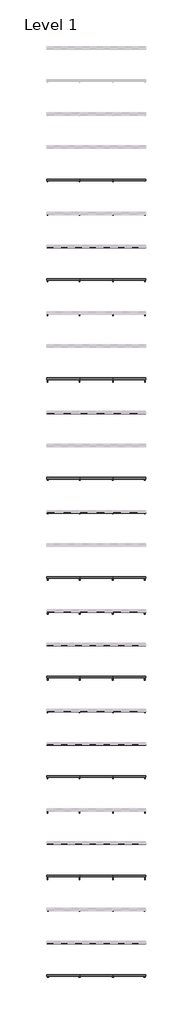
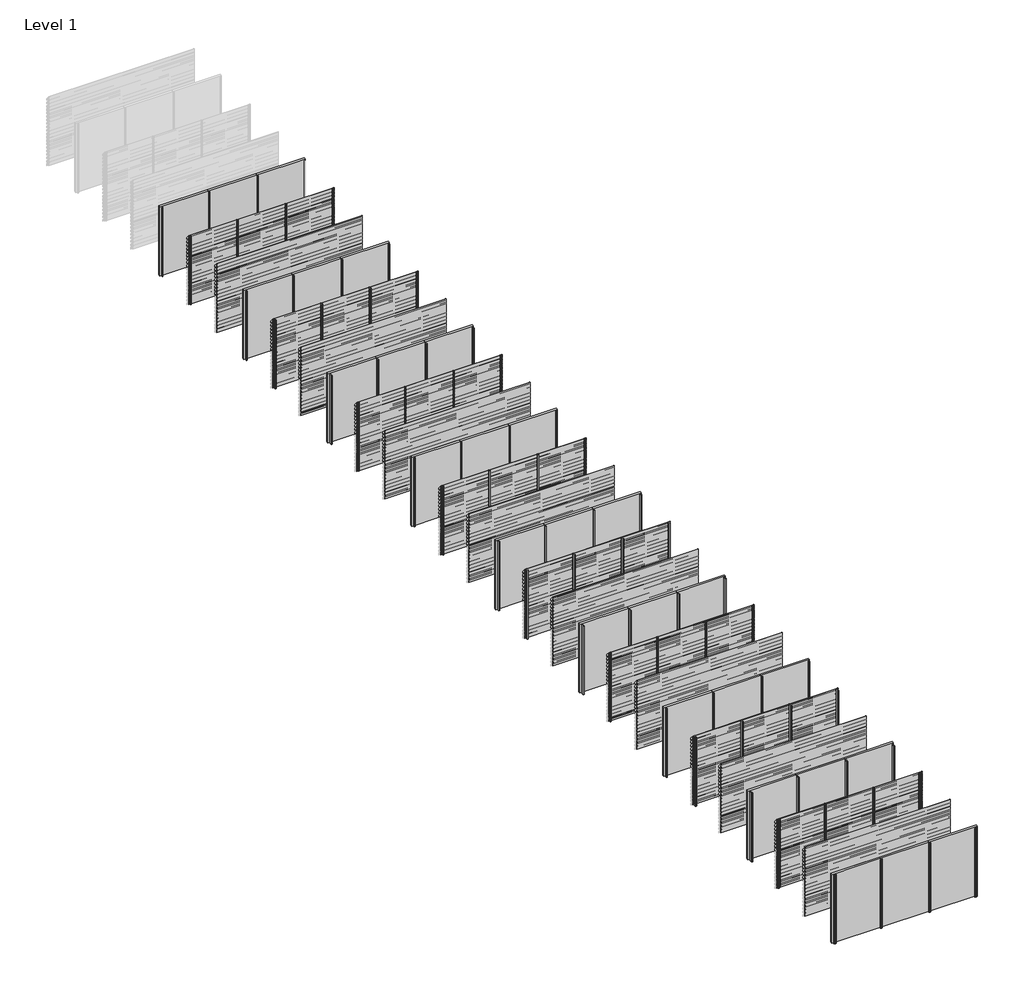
# One storey, part 1 of 16: 67 members, 59 plates.
"""IFC4 building model written with IfcOpenShell, lengths in millimetres."""

from ifc_helpers import new_model, si_unit, origin, origin_with_axes, place, context, project, spatial, polyline, outline, extrude, transform, mapped, element, save
from components import rectangular_mullion_e1f482b2, rectangular_mullion_21e3ddae, rectangular_mullion_fb497acc, rectangular_mullion_3facce28, rectangular_mullion_6cf2c509, rectangular_mullion_8b77bd57, rectangular_mullion_2c867e25, rectangular_mullion_7803f5c4, rectangular_mullion_82152e2f, rectangular_mullion_146f339b, rectangular_mullion_c2c7736a, rectangular_mullion_35b0a916, rectangular_mullion_bd250e2e, rectangular_mullion_7b49c8f1, rectangular_mullion_2b84ad7e, rectangular_mullion_0fd695e7, rectangular_mullion_9b796d85, rectangular_mullion_dfb17e98, rectangular_mullion_6132f1f1, rectangular_mullion_8f153c19, rectangular_mullion_5b30f3fd, rectangular_mullion_5e0e8e0a, rectangular_mullion_d2d38772, rectangular_mullion_efb80f74, rectangular_mullion_aaa1fb1b, rectangular_mullion_ea9d012c, empty_system_panel_empty_90a97279

model = new_model("IFC4")

# Units and contexts
model_context = context("Model", 3, world=origin())
ifc_project = project(units=[si_unit("LENGTHUNIT", "METRE", prefix="MILLI")], contexts=[model_context])

# Site, building, storey
site = spatial("IfcSite", under=ifc_project)
building = spatial("IfcBuilding", under=site)
storey = spatial("IfcBuildingStorey", under=building, Name="Level 1", Elevation=0.0)

# Members
placement = place(None, origin())
rectangular_mullion_shape = rectangular_mullion_e1f482b2(model_context)
element("IfcMember", 1, ObjectType="Rectangular Mullion : NLRS_21_CWM_drager LD.0195_Storax", at=placement, inside=storey, context=model_context, shape_type="MappedRepresentation", body=[
    mapped(rectangular_mullion_shape, transform((4000.0, -10000.0, 0.0), x_axis=(-1.0, 0.0, 0.0), y_axis=(0.0, 1.0, 0.0), z_axis=(0.0, 0.0, -1.0))),
])
element("IfcMember", 2, ObjectType="Rectangular Mullion : NLRS_21_CWM_drager LD.0195_Storax", at=placement, inside=storey, context=model_context, shape_type="MappedRepresentation", body=[
    mapped(rectangular_mullion_shape, transform((2000.0, -10000.0, 0.0), x_axis=(-1.0, 0.0, 0.0), y_axis=(0.0, 1.0, 0.0), z_axis=(0.0, 0.0, -1.0))),
])
rectangular_mullion_2_shape = rectangular_mullion_21e3ddae(model_context)
element("IfcMember", 3, ObjectType="Rectangular Mullion : NLRS_21_CWM_drager LD.0460_Storax", at=placement, inside=storey, context=model_context, shape_type="MappedRepresentation", body=[
    mapped(rectangular_mullion_2_shape, transform((4000.0, -12000.0, 0.0), x_axis=(-1.0, 0.0, 0.0), y_axis=(0.0, 1.0, 0.0), z_axis=(0.0, 0.0, -1.0))),
])
element("IfcMember", 4, ObjectType="Rectangular Mullion : NLRS_21_CWM_drager LD.0460_Storax", at=placement, inside=storey, context=model_context, shape_type="MappedRepresentation", body=[
    mapped(rectangular_mullion_2_shape, transform((2000.0, -12000.0, 0.0), x_axis=(-1.0, 0.0, 0.0), y_axis=(0.0, 1.0, 0.0), z_axis=(0.0, 0.0, -1.0))),
])
element("IfcMember", 5, ObjectType="Rectangular Mullion : NLRS_21_CWM_drager LD.0460_Storax", at=placement, inside=storey, context=model_context, shape_type="MappedRepresentation", body=[
    mapped(rectangular_mullion_2_shape, transform((4000.0, -16000.0, 0.0), x_axis=(-1.0, 0.0, 0.0), y_axis=(0.0, 1.0, 0.0), z_axis=(0.0, 0.0, -1.0))),
])
element("IfcMember", 6, ObjectType="Rectangular Mullion : NLRS_21_CWM_drager LD.0460_Storax", at=placement, inside=storey, context=model_context, shape_type="MappedRepresentation", body=[
    mapped(rectangular_mullion_2_shape, transform((2000.0, -16000.0, 0.0), x_axis=(-1.0, 0.0, 0.0), y_axis=(0.0, 1.0, 0.0), z_axis=(0.0, 0.0, -1.0))),
])
rectangular_mullion_3_shape = rectangular_mullion_fb497acc(model_context)
element("IfcMember", 7, ObjectType="Rectangular Mullion : NLRS_21_CWM_drager LD.0995_Storax", at=placement, inside=storey, context=model_context, shape_type="MappedRepresentation", body=[
    mapped(rectangular_mullion_3_shape, transform((4000.0, -18000.0, 0.0), x_axis=(-1.0, 0.0, 0.0), y_axis=(0.0, 1.0, 0.0), z_axis=(0.0, 0.0, -1.0))),
])
element("IfcMember", 8, ObjectType="Rectangular Mullion : NLRS_21_CWM_drager LD.0995_Storax", at=placement, inside=storey, context=model_context, shape_type="MappedRepresentation", body=[
    mapped(rectangular_mullion_3_shape, transform((2000.0, -18000.0, 0.0), x_axis=(-1.0, 0.0, 0.0), y_axis=(0.0, 1.0, 0.0), z_axis=(0.0, 0.0, -1.0))),
])
element("IfcMember", 9, ObjectType="Rectangular Mullion : NLRS_21_CWM_drager LD.0995_Storax", at=placement, inside=storey, context=model_context, shape_type="MappedRepresentation", body=[
    mapped(rectangular_mullion_3_shape, transform((4000.0, -22000.0, 0.0), x_axis=(-1.0, 0.0, 0.0), y_axis=(0.0, 1.0, 0.0), z_axis=(0.0, 0.0, -1.0))),
])
element("IfcMember", 10, ObjectType="Rectangular Mullion : NLRS_21_CWM_drager LD.0995_Storax", at=placement, inside=storey, context=model_context, shape_type="MappedRepresentation", body=[
    mapped(rectangular_mullion_3_shape, transform((2000.0, -22000.0, 0.0), x_axis=(-1.0, 0.0, 0.0), y_axis=(0.0, 1.0, 0.0), z_axis=(0.0, 0.0, -1.0))),
])
rectangular_mullion_4_shape = rectangular_mullion_3facce28(model_context)
element("IfcMember", 11, ObjectType="Rectangular Mullion : NLRS_21_CWM_drager SD.014_Storax", at=placement, inside=storey, context=model_context, shape_type="MappedRepresentation", body=[
    mapped(rectangular_mullion_4_shape, transform((4000.0, -24000.0, 0.0), x_axis=(-1.0, 0.0, 0.0), y_axis=(0.0, 1.0, 0.0), z_axis=(0.0, 0.0, -1.0))),
])
element("IfcMember", 12, ObjectType="Rectangular Mullion : NLRS_21_CWM_drager SD.014_Storax", at=placement, inside=storey, context=model_context, shape_type="MappedRepresentation", body=[
    mapped(rectangular_mullion_4_shape, transform((2000.0, -24000.0, 0.0), x_axis=(-1.0, 0.0, 0.0), y_axis=(0.0, 1.0, 0.0), z_axis=(0.0, 0.0, -1.0))),
])
element("IfcMember", 13, ObjectType="Rectangular Mullion : NLRS_21_CWM_drager SD.014_Storax", at=placement, inside=storey, context=model_context, shape_type="MappedRepresentation", body=[
    mapped(rectangular_mullion_4_shape, transform((4000.0, -28000.0, 0.0), x_axis=(-1.0, 0.0, 0.0), y_axis=(0.0, 1.0, 0.0), z_axis=(0.0, 0.0, -1.0))),
])
element("IfcMember", 14, ObjectType="Rectangular Mullion : NLRS_21_CWM_drager SD.014_Storax", at=placement, inside=storey, context=model_context, shape_type="MappedRepresentation", body=[
    mapped(rectangular_mullion_4_shape, transform((2000.0, -28000.0, 0.0), x_axis=(-1.0, 0.0, 0.0), y_axis=(0.0, 1.0, 0.0), z_axis=(0.0, 0.0, -1.0))),
])
rectangular_mullion_5_shape = rectangular_mullion_6cf2c509(model_context)
element("IfcMember", 15, ObjectType="Rectangular Mullion : NLRS_21_CWM_drager SD.054_Storax", at=placement, inside=storey, context=model_context, shape_type="MappedRepresentation", body=[
    mapped(rectangular_mullion_5_shape, transform((4000.0, -30000.0, 0.0), x_axis=(-1.0, 0.0, 0.0), y_axis=(0.0, 1.0, 0.0), z_axis=(0.0, 0.0, -1.0))),
])
element("IfcMember", 16, ObjectType="Rectangular Mullion : NLRS_21_CWM_drager SD.054_Storax", at=placement, inside=storey, context=model_context, shape_type="MappedRepresentation", body=[
    mapped(rectangular_mullion_5_shape, transform((2000.0, -30000.0, 0.0), x_axis=(-1.0, 0.0, 0.0), y_axis=(0.0, 1.0, 0.0), z_axis=(0.0, 0.0, -1.0))),
])
element("IfcMember", 17, ObjectType="Rectangular Mullion : NLRS_21_CWM_drager SD.054_Storax", at=placement, inside=storey, context=model_context, shape_type="MappedRepresentation", body=[
    mapped(rectangular_mullion_5_shape, transform((4000.0, -34000.0, 0.0), x_axis=(-1.0, 0.0, 0.0), y_axis=(0.0, 1.0, 0.0), z_axis=(0.0, 0.0, -1.0))),
])
element("IfcMember", 18, ObjectType="Rectangular Mullion : NLRS_21_CWM_drager SD.054_Storax", at=placement, inside=storey, context=model_context, shape_type="MappedRepresentation", body=[
    mapped(rectangular_mullion_5_shape, transform((2000.0, -34000.0, 0.0), x_axis=(-1.0, 0.0, 0.0), y_axis=(0.0, 1.0, 0.0), z_axis=(0.0, 0.0, -1.0))),
])
rectangular_mullion_6_shape = rectangular_mullion_8b77bd57(model_context)
element("IfcMember", 19, ObjectType="Rectangular Mullion : NLRS_21_CWM_drager SD.100_Storax", at=placement, inside=storey, context=model_context, shape_type="MappedRepresentation", body=[
    mapped(rectangular_mullion_6_shape, transform((4000.0, -36000.0, 0.0), x_axis=(-1.0, 0.0, 0.0), y_axis=(0.0, 1.0, 0.0), z_axis=(0.0, 0.0, -1.0))),
])
element("IfcMember", 20, ObjectType="Rectangular Mullion : NLRS_21_CWM_drager SD.100_Storax", at=placement, inside=storey, context=model_context, shape_type="MappedRepresentation", body=[
    mapped(rectangular_mullion_6_shape, transform((2000.0, -36000.0, 0.0), x_axis=(-1.0, 0.0, 0.0), y_axis=(0.0, 1.0, 0.0), z_axis=(0.0, 0.0, -1.0))),
])
element("IfcMember", 21, ObjectType="Rectangular Mullion : NLRS_21_CWM_drager SD.100_Storax", at=placement, inside=storey, context=model_context, shape_type="MappedRepresentation", body=[
    mapped(rectangular_mullion_6_shape, transform((4000.0, -40000.0, 0.0), x_axis=(-1.0, 0.0, 0.0), y_axis=(0.0, 1.0, 0.0), z_axis=(0.0, 0.0, -1.0))),
])
element("IfcMember", 22, ObjectType="Rectangular Mullion : NLRS_21_CWM_drager SD.100_Storax", at=placement, inside=storey, context=model_context, shape_type="MappedRepresentation", body=[
    mapped(rectangular_mullion_6_shape, transform((2000.0, -40000.0, 0.0), x_axis=(-1.0, 0.0, 0.0), y_axis=(0.0, 1.0, 0.0), z_axis=(0.0, 0.0, -1.0))),
])
rectangular_mullion_7_shape = rectangular_mullion_2c867e25(model_context)
element("IfcMember", 23, ObjectType="Rectangular Mullion : NLRS_21_CWM_drager LD.0440_Storax", at=placement, inside=storey, context=model_context, shape_type="MappedRepresentation", body=[
    mapped(rectangular_mullion_7_shape, transform((4000.0, -42000.0, 0.0), x_axis=(-1.0, 0.0, 0.0), y_axis=(0.0, 1.0, 0.0), z_axis=(0.0, 0.0, -1.0))),
])
element("IfcMember", 24, ObjectType="Rectangular Mullion : NLRS_21_CWM_drager LD.0440_Storax", at=placement, inside=storey, context=model_context, shape_type="MappedRepresentation", body=[
    mapped(rectangular_mullion_7_shape, transform((2000.0, -42000.0, 0.0), x_axis=(-1.0, 0.0, 0.0), y_axis=(0.0, 1.0, 0.0), z_axis=(0.0, 0.0, -1.0))),
])
element("IfcMember", 25, ObjectType="Rectangular Mullion : NLRS_21_CWM_drager LD.0440_Storax", at=placement, inside=storey, context=model_context, shape_type="MappedRepresentation", body=[
    mapped(rectangular_mullion_7_shape, transform((4000.0, -46000.0, 0.0), x_axis=(-1.0, 0.0, 0.0), y_axis=(0.0, 1.0, 0.0), z_axis=(0.0, 0.0, -1.0))),
])
element("IfcMember", 26, ObjectType="Rectangular Mullion : NLRS_21_CWM_drager LD.0440_Storax", at=placement, inside=storey, context=model_context, shape_type="MappedRepresentation", body=[
    mapped(rectangular_mullion_7_shape, transform((2000.0, -46000.0, 0.0), x_axis=(-1.0, 0.0, 0.0), y_axis=(0.0, 1.0, 0.0), z_axis=(0.0, 0.0, -1.0))),
])
rectangular_mullion_8_shape = rectangular_mullion_7803f5c4(model_context)
element("IfcMember", 27, ObjectType="Rectangular Mullion : NLRS_21_CWM_drager LD.1250_Storax", at=placement, inside=storey, context=model_context, shape_type="MappedRepresentation", body=[
    mapped(rectangular_mullion_8_shape, transform((4000.0, -48000.0, 0.0), x_axis=(-1.0, 0.0, 0.0), y_axis=(0.0, 1.0, 0.0), z_axis=(0.0, 0.0, -1.0))),
])
element("IfcMember", 28, ObjectType="Rectangular Mullion : NLRS_21_CWM_drager LD.1250_Storax", at=placement, inside=storey, context=model_context, shape_type="MappedRepresentation", body=[
    mapped(rectangular_mullion_8_shape, transform((2000.0, -48000.0, 0.0), x_axis=(-1.0, 0.0, 0.0), y_axis=(0.0, 1.0, 0.0), z_axis=(0.0, 0.0, -1.0))),
])
element("IfcMember", 29, ObjectType="Rectangular Mullion : NLRS_21_CWM_drager LD.1250_Storax", at=placement, inside=storey, context=model_context, shape_type="MappedRepresentation", body=[
    mapped(rectangular_mullion_8_shape, transform((4000.0, -52000.0, 0.0), x_axis=(-1.0, 0.0, 0.0), y_axis=(0.0, 1.0, 0.0), z_axis=(0.0, 0.0, -1.0))),
])
element("IfcMember", 30, ObjectType="Rectangular Mullion : NLRS_21_CWM_drager LD.1250_Storax", at=placement, inside=storey, context=model_context, shape_type="MappedRepresentation", body=[
    mapped(rectangular_mullion_8_shape, transform((2000.0, -52000.0, 0.0), x_axis=(-1.0, 0.0, 0.0), y_axis=(0.0, 1.0, 0.0), z_axis=(0.0, 0.0, -1.0))),
])
rectangular_mullion_9_shape = rectangular_mullion_82152e2f(model_context)
element("IfcMember", 31, ObjectType="Rectangular Mullion : NLRS_21_CWM_drager LD.0240_Storax", at=placement, inside=storey, context=model_context, shape_type="MappedRepresentation", body=[
    mapped(rectangular_mullion_9_shape, transform((4000.0, -54000.0, 0.0), x_axis=(-1.0, 0.0, 0.0), y_axis=(0.0, 1.0, 0.0), z_axis=(0.0, 0.0, -1.0))),
])
element("IfcMember", 32, ObjectType="Rectangular Mullion : NLRS_21_CWM_drager LD.0240_Storax", at=placement, inside=storey, context=model_context, shape_type="MappedRepresentation", body=[
    mapped(rectangular_mullion_9_shape, transform((2000.0, -54000.0, 0.0), x_axis=(-1.0, 0.0, 0.0), y_axis=(0.0, 1.0, 0.0), z_axis=(0.0, 0.0, -1.0))),
])
element("IfcMember", 33, ObjectType="Rectangular Mullion : NLRS_21_CWM_drager LD.0240_Storax", at=placement, inside=storey, context=model_context, shape_type="MappedRepresentation", body=[
    mapped(rectangular_mullion_9_shape, transform((4000.0, -58000.0, 0.0), x_axis=(-1.0, 0.0, 0.0), y_axis=(0.0, 1.0, 0.0), z_axis=(0.0, 0.0, -1.0))),
])
element("IfcMember", 34, ObjectType="Rectangular Mullion : NLRS_21_CWM_drager LD.0240_Storax", at=placement, inside=storey, context=model_context, shape_type="MappedRepresentation", body=[
    mapped(rectangular_mullion_9_shape, transform((2000.0, -58000.0, 0.0), x_axis=(-1.0, 0.0, 0.0), y_axis=(0.0, 1.0, 0.0), z_axis=(0.0, 0.0, -1.0))),
])
rectangular_mullion_10_shape = rectangular_mullion_146f339b(model_context)
element("IfcMember", 35, ObjectType="Rectangular Mullion : NLRS_21_CWM_drager LD.0195 - links_Storax", at=placement, inside=storey, context=model_context, shape_type="MappedRepresentation", body=[
    mapped(rectangular_mullion_10_shape, transform((0.0, -10000.0, 0.0), x_axis=(-1.0, 0.0, 0.0), y_axis=(0.0, 1.0, 0.0), z_axis=(0.0, 0.0, -1.0))),
])
rectangular_mullion_11_shape = rectangular_mullion_c2c7736a(model_context)
element("IfcMember", 36, ObjectType="Rectangular Mullion : NLRS_21_CWM_drager LD.0460 - links_Storax", at=placement, inside=storey, context=model_context, shape_type="MappedRepresentation", body=[
    mapped(rectangular_mullion_11_shape, transform((0.0, -12000.0, 0.0), x_axis=(-1.0, 0.0, 0.0), y_axis=(0.0, 1.0, 0.0), z_axis=(0.0, 0.0, -1.0))),
])
element("IfcMember", 37, ObjectType="Rectangular Mullion : NLRS_21_CWM_drager LD.0460 - links_Storax", at=placement, inside=storey, context=model_context, shape_type="MappedRepresentation", body=[
    mapped(rectangular_mullion_11_shape, transform((0.0, -16000.0, 0.0), x_axis=(-1.0, 0.0, 0.0), y_axis=(0.0, 1.0, 0.0), z_axis=(0.0, 0.0, -1.0))),
])
rectangular_mullion_12_shape = rectangular_mullion_35b0a916(model_context)
element("IfcMember", 38, ObjectType="Rectangular Mullion : NLRS_21_CWM_drager LD.0460 - rechts_Storax", at=placement, inside=storey, context=model_context, shape_type="MappedRepresentation", body=[
    mapped(rectangular_mullion_12_shape, transform((6000.0, -12000.0, 3000.0), x_axis=(1.0, 0.0, 0.0), y_axis=(0.0, 1.0, 0.0), z_axis=(0.0, 0.0, 1.0))),
])
element("IfcMember", 39, ObjectType="Rectangular Mullion : NLRS_21_CWM_drager LD.0460 - rechts_Storax", at=placement, inside=storey, context=model_context, shape_type="MappedRepresentation", body=[
    mapped(rectangular_mullion_12_shape, transform((6000.0, -16000.0, 3000.0), x_axis=(1.0, 0.0, 0.0), y_axis=(0.0, 1.0, 0.0), z_axis=(0.0, 0.0, 1.0))),
])
rectangular_mullion_13_shape = rectangular_mullion_bd250e2e(model_context)
element("IfcMember", 40, ObjectType="Rectangular Mullion : NLRS_21_CWM_drager LD.0995 - links_Storax", at=placement, inside=storey, context=model_context, shape_type="MappedRepresentation", body=[
    mapped(rectangular_mullion_13_shape, transform((0.0, -18000.0, 0.0), x_axis=(-1.0, 0.0, 0.0), y_axis=(0.0, 1.0, 0.0), z_axis=(0.0, 0.0, -1.0))),
])
element("IfcMember", 41, ObjectType="Rectangular Mullion : NLRS_21_CWM_drager LD.0995 - links_Storax", at=placement, inside=storey, context=model_context, shape_type="MappedRepresentation", body=[
    mapped(rectangular_mullion_13_shape, transform((0.0, -22000.0, 0.0), x_axis=(-1.0, 0.0, 0.0), y_axis=(0.0, 1.0, 0.0), z_axis=(0.0, 0.0, -1.0))),
])
rectangular_mullion_14_shape = rectangular_mullion_7b49c8f1(model_context)
element("IfcMember", 42, ObjectType="Rectangular Mullion : NLRS_21_CWM_drager LD.0995 - rechts_Storax", at=placement, inside=storey, context=model_context, shape_type="MappedRepresentation", body=[
    mapped(rectangular_mullion_14_shape, transform((6000.0, -18000.0, 3000.0), x_axis=(1.0, 0.0, 0.0), y_axis=(0.0, 1.0, 0.0), z_axis=(0.0, 0.0, 1.0))),
])
element("IfcMember", 43, ObjectType="Rectangular Mullion : NLRS_21_CWM_drager LD.0995 - rechts_Storax", at=placement, inside=storey, context=model_context, shape_type="MappedRepresentation", body=[
    mapped(rectangular_mullion_14_shape, transform((6000.0, -22000.0, 3000.0), x_axis=(1.0, 0.0, 0.0), y_axis=(0.0, 1.0, 0.0), z_axis=(0.0, 0.0, 1.0))),
])
rectangular_mullion_15_shape = rectangular_mullion_2b84ad7e(model_context)
element("IfcMember", 44, ObjectType="Rectangular Mullion : NLRS_21_CWM_drager SD.014 - links_Storax", at=placement, inside=storey, context=model_context, shape_type="MappedRepresentation", body=[
    mapped(rectangular_mullion_15_shape, transform((0.0, -24000.0, 0.0), x_axis=(-1.0, 0.0, 0.0), y_axis=(0.0, 1.0, 0.0), z_axis=(0.0, 0.0, -1.0))),
])
element("IfcMember", 45, ObjectType="Rectangular Mullion : NLRS_21_CWM_drager SD.014 - links_Storax", at=placement, inside=storey, context=model_context, shape_type="MappedRepresentation", body=[
    mapped(rectangular_mullion_15_shape, transform((0.0, -28000.0, 0.0), x_axis=(-1.0, 0.0, 0.0), y_axis=(0.0, 1.0, 0.0), z_axis=(0.0, 0.0, -1.0))),
])
rectangular_mullion_16_shape = rectangular_mullion_0fd695e7(model_context)
element("IfcMember", 46, ObjectType="Rectangular Mullion : NLRS_21_CWM_drager SD.014 - rechts_Storax", at=placement, inside=storey, context=model_context, shape_type="MappedRepresentation", body=[
    mapped(rectangular_mullion_16_shape, transform((6000.0, -24000.0, 3000.0), x_axis=(1.0, 0.0, 0.0), y_axis=(0.0, 1.0, 0.0), z_axis=(0.0, 0.0, 1.0))),
])
element("IfcMember", 47, ObjectType="Rectangular Mullion : NLRS_21_CWM_drager SD.014 - rechts_Storax", at=placement, inside=storey, context=model_context, shape_type="MappedRepresentation", body=[
    mapped(rectangular_mullion_16_shape, transform((6000.0, -28000.0, 3000.0), x_axis=(1.0, 0.0, 0.0), y_axis=(0.0, 1.0, 0.0), z_axis=(0.0, 0.0, 1.0))),
])
rectangular_mullion_17_shape = rectangular_mullion_9b796d85(model_context)
element("IfcMember", 48, ObjectType="Rectangular Mullion : NLRS_21_CWM_drager SD.054 - links_Storax", at=placement, inside=storey, context=model_context, shape_type="MappedRepresentation", body=[
    mapped(rectangular_mullion_17_shape, transform((0.0, -30000.0, 0.0), x_axis=(-1.0, 0.0, 0.0), y_axis=(0.0, 1.0, 0.0), z_axis=(0.0, 0.0, -1.0))),
])
element("IfcMember", 49, ObjectType="Rectangular Mullion : NLRS_21_CWM_drager SD.054 - links_Storax", at=placement, inside=storey, context=model_context, shape_type="MappedRepresentation", body=[
    mapped(rectangular_mullion_17_shape, transform((0.0, -34000.0, 0.0), x_axis=(-1.0, 0.0, 0.0), y_axis=(0.0, 1.0, 0.0), z_axis=(0.0, 0.0, -1.0))),
])
rectangular_mullion_18_shape = rectangular_mullion_dfb17e98(model_context)
element("IfcMember", 50, ObjectType="Rectangular Mullion : NLRS_21_CWM_drager SD.054 - rechts_Storax", at=placement, inside=storey, context=model_context, shape_type="MappedRepresentation", body=[
    mapped(rectangular_mullion_18_shape, transform((6000.0, -30000.0, 3000.0), x_axis=(1.0, 0.0, 0.0), y_axis=(0.0, 1.0, 0.0), z_axis=(0.0, 0.0, 1.0))),
])
element("IfcMember", 51, ObjectType="Rectangular Mullion : NLRS_21_CWM_drager SD.054 - rechts_Storax", at=placement, inside=storey, context=model_context, shape_type="MappedRepresentation", body=[
    mapped(rectangular_mullion_18_shape, transform((6000.0, -34000.0, 3000.0), x_axis=(1.0, 0.0, 0.0), y_axis=(0.0, 1.0, 0.0), z_axis=(0.0, 0.0, 1.0))),
])
rectangular_mullion_19_shape = rectangular_mullion_6132f1f1(model_context)
element("IfcMember", 52, ObjectType="Rectangular Mullion : NLRS_21_CWM_drager SD.100 - links_Storax", at=placement, inside=storey, context=model_context, shape_type="MappedRepresentation", body=[
    mapped(rectangular_mullion_19_shape, transform((0.0, -36000.0, 0.0), x_axis=(-1.0, 0.0, 0.0), y_axis=(0.0, 1.0, 0.0), z_axis=(0.0, 0.0, -1.0))),
])
element("IfcMember", 53, ObjectType="Rectangular Mullion : NLRS_21_CWM_drager SD.100 - links_Storax", at=placement, inside=storey, context=model_context, shape_type="MappedRepresentation", body=[
    mapped(rectangular_mullion_19_shape, transform((0.0, -40000.0, 0.0), x_axis=(-1.0, 0.0, 0.0), y_axis=(0.0, 1.0, 0.0), z_axis=(0.0, 0.0, -1.0))),
])
rectangular_mullion_20_shape = rectangular_mullion_8f153c19(model_context)
element("IfcMember", 54, ObjectType="Rectangular Mullion : NLRS_21_CWM_drager SD.100 - rechts_Storax", at=placement, inside=storey, context=model_context, shape_type="MappedRepresentation", body=[
    mapped(rectangular_mullion_20_shape, transform((6000.0, -36000.0, 3000.0), x_axis=(1.0, 0.0, 0.0), y_axis=(0.0, 1.0, 0.0), z_axis=(0.0, 0.0, 1.0))),
])
element("IfcMember", 55, ObjectType="Rectangular Mullion : NLRS_21_CWM_drager SD.100 - rechts_Storax", at=placement, inside=storey, context=model_context, shape_type="MappedRepresentation", body=[
    mapped(rectangular_mullion_20_shape, transform((6000.0, -40000.0, 3000.0), x_axis=(1.0, 0.0, 0.0), y_axis=(0.0, 1.0, 0.0), z_axis=(0.0, 0.0, 1.0))),
])
rectangular_mullion_21_shape = rectangular_mullion_5b30f3fd(model_context)
element("IfcMember", 56, ObjectType="Rectangular Mullion : NLRS_21_CWM_drager LD.0440 - links_Storax", at=placement, inside=storey, context=model_context, shape_type="MappedRepresentation", body=[
    mapped(rectangular_mullion_21_shape, transform((0.0, -42000.0, 0.0), x_axis=(-1.0, 0.0, 0.0), y_axis=(0.0, 1.0, 0.0), z_axis=(0.0, 0.0, -1.0))),
])
element("IfcMember", 57, ObjectType="Rectangular Mullion : NLRS_21_CWM_drager LD.0440 - links_Storax", at=placement, inside=storey, context=model_context, shape_type="MappedRepresentation", body=[
    mapped(rectangular_mullion_21_shape, transform((0.0, -46000.0, 0.0), x_axis=(-1.0, 0.0, 0.0), y_axis=(0.0, 1.0, 0.0), z_axis=(0.0, 0.0, -1.0))),
])
rectangular_mullion_22_shape = rectangular_mullion_5e0e8e0a(model_context)
element("IfcMember", 58, ObjectType="Rectangular Mullion : NLRS_21_CWM_drager LD.0440 - rechts_Storax", at=placement, inside=storey, context=model_context, shape_type="MappedRepresentation", body=[
    mapped(rectangular_mullion_22_shape, transform((6000.0, -42000.0, 3000.0), x_axis=(1.0, 0.0, 0.0), y_axis=(0.0, 1.0, 0.0), z_axis=(0.0, 0.0, 1.0))),
])
element("IfcMember", 59, ObjectType="Rectangular Mullion : NLRS_21_CWM_drager LD.0440 - rechts_Storax", at=placement, inside=storey, context=model_context, shape_type="MappedRepresentation", body=[
    mapped(rectangular_mullion_22_shape, transform((6000.0, -46000.0, 3000.0), x_axis=(1.0, 0.0, 0.0), y_axis=(0.0, 1.0, 0.0), z_axis=(0.0, 0.0, 1.0))),
])
rectangular_mullion_23_shape = rectangular_mullion_d2d38772(model_context)
element("IfcMember", 60, ObjectType="Rectangular Mullion : NLRS_21_CWM_drager LD.1250 - links_Storax", at=placement, inside=storey, context=model_context, shape_type="MappedRepresentation", body=[
    mapped(rectangular_mullion_23_shape, transform((0.0, -48000.0, 0.0), x_axis=(-1.0, 0.0, 0.0), y_axis=(0.0, 1.0, 0.0), z_axis=(0.0, 0.0, -1.0))),
])
element("IfcMember", 61, ObjectType="Rectangular Mullion : NLRS_21_CWM_drager LD.1250 - links_Storax", at=placement, inside=storey, context=model_context, shape_type="MappedRepresentation", body=[
    mapped(rectangular_mullion_23_shape, transform((0.0, -52000.0, 0.0), x_axis=(-1.0, 0.0, 0.0), y_axis=(0.0, 1.0, 0.0), z_axis=(0.0, 0.0, -1.0))),
])
rectangular_mullion_24_shape = rectangular_mullion_efb80f74(model_context)
element("IfcMember", 62, ObjectType="Rectangular Mullion : NLRS_21_CWM_drager LD.1250 - rechts_Storax", at=placement, inside=storey, context=model_context, shape_type="MappedRepresentation", body=[
    mapped(rectangular_mullion_24_shape, transform((6000.0, -48000.0, 3000.0), x_axis=(1.0, 0.0, 0.0), y_axis=(0.0, 1.0, 0.0), z_axis=(0.0, 0.0, 1.0))),
])
element("IfcMember", 63, ObjectType="Rectangular Mullion : NLRS_21_CWM_drager LD.1250 - rechts_Storax", at=placement, inside=storey, context=model_context, shape_type="MappedRepresentation", body=[
    mapped(rectangular_mullion_24_shape, transform((6000.0, -52000.0, 3000.0), x_axis=(1.0, 0.0, 0.0), y_axis=(0.0, 1.0, 0.0), z_axis=(0.0, 0.0, 1.0))),
])
rectangular_mullion_25_shape = rectangular_mullion_aaa1fb1b(model_context)
element("IfcMember", 64, ObjectType="Rectangular Mullion : NLRS_21_CWM_drager LD.0240 - links_Storax", at=placement, inside=storey, context=model_context, shape_type="MappedRepresentation", body=[
    mapped(rectangular_mullion_25_shape, transform((0.0, -54000.0, 0.0), x_axis=(-1.0, 0.0, 0.0), y_axis=(0.0, 1.0, 0.0), z_axis=(0.0, 0.0, -1.0))),
])
element("IfcMember", 65, ObjectType="Rectangular Mullion : NLRS_21_CWM_drager LD.0240 - links_Storax", at=placement, inside=storey, context=model_context, shape_type="MappedRepresentation", body=[
    mapped(rectangular_mullion_25_shape, transform((0.0, -58000.0, 0.0), x_axis=(-1.0, 0.0, 0.0), y_axis=(0.0, 1.0, 0.0), z_axis=(0.0, 0.0, -1.0))),
])
rectangular_mullion_26_shape = rectangular_mullion_ea9d012c(model_context)
element("IfcMember", 66, ObjectType="Rectangular Mullion : NLRS_21_CWM_drager LD.0240 - rechts_Storax", at=placement, inside=storey, context=model_context, shape_type="MappedRepresentation", body=[
    mapped(rectangular_mullion_26_shape, transform((6000.0, -54000.0, 3000.0), x_axis=(1.0, 0.0, 0.0), y_axis=(0.0, 1.0, 0.0), z_axis=(0.0, 0.0, 1.0))),
])
element("IfcMember", 67, ObjectType="Rectangular Mullion : NLRS_21_CWM_drager LD.0240 - rechts_Storax", at=placement, inside=storey, context=model_context, shape_type="MappedRepresentation", body=[
    mapped(rectangular_mullion_26_shape, transform((6000.0, -58000.0, 3000.0), x_axis=(1.0, 0.0, 0.0), y_axis=(0.0, 1.0, 0.0), z_axis=(0.0, 0.0, 1.0))),
])

# Plates
element("IfcPlate", 68, ObjectType="NLRS_21_WA_lamellenwand Linius - L.150ACS_Storax", at=placement, inside=storey, context=model_context, shape_type="SweptSolid", body=[
    extrude(outline(polyline([(0.0, -11999.0), (2000.0, -11999.0), (2000.0, -12001.0), (0.0, -12001.0), (0.0, -11999.0)])), origin_with_axes(), (0.0, 0.0, 1.0), 3000.0),
])
element("IfcPlate", 69, ObjectType="NLRS_21_WA_lamellenwand Linius - L.150ACS_Storax", at=placement, inside=storey, context=model_context, shape_type="SweptSolid", body=[
    extrude(outline(polyline([(2000.0, -11999.0), (4000.0, -11999.0), (4000.0, -12001.0), (2000.0, -12001.0), (2000.0, -11999.0)])), origin_with_axes(), (0.0, 0.0, 1.0), 3000.0),
])
element("IfcPlate", 70, ObjectType="NLRS_21_WA_lamellenwand Linius - L.150ACS_Storax", at=placement, inside=storey, context=model_context, shape_type="SweptSolid", body=[
    extrude(outline(polyline([(4000.0, -11999.0), (6000.0, -11999.0), (6000.0, -12001.0), (4000.0, -12001.0), (4000.0, -11999.0)])), origin_with_axes(), (0.0, 0.0, 1.0), 3000.0),
])
element("IfcPlate", 71, ObjectType="NLRS_21_WA_lamellenwand Linius - L.150ACS_Storax", at=placement, inside=storey, context=model_context, shape_type="SweptSolid", body=[
    extrude(outline(polyline([(0.0, -13999.0), (6000.0, -13999.0), (6000.0, -14001.0), (0.0, -14001.0), (0.0, -13999.0)])), origin_with_axes(), (0.0, 0.0, 1.0), 3000.0),
])
element("IfcPlate", 72, ObjectType="NLRS_21_WA_lamellenwand Linius - L.150ACS_Storax", at=placement, inside=storey, context=model_context, shape_type="SweptSolid", body=[
    extrude(outline(polyline([(0.0, -17999.0), (2000.0, -17999.0), (2000.0, -18001.0), (0.0, -18001.0), (0.0, -17999.0)])), origin_with_axes(), (0.0, 0.0, 1.0), 3000.0),
])
element("IfcPlate", 73, ObjectType="NLRS_21_WA_lamellenwand Linius - L.150ACS_Storax", at=placement, inside=storey, context=model_context, shape_type="SweptSolid", body=[
    extrude(outline(polyline([(2000.0, -17999.0), (4000.0, -17999.0), (4000.0, -18001.0), (2000.0, -18001.0), (2000.0, -17999.0)])), origin_with_axes(), (0.0, 0.0, 1.0), 3000.0),
])
element("IfcPlate", 74, ObjectType="NLRS_21_WA_lamellenwand Linius - L.150ACS_Storax", at=placement, inside=storey, context=model_context, shape_type="SweptSolid", body=[
    extrude(outline(polyline([(4000.0, -17999.0), (6000.0, -17999.0), (6000.0, -18001.0), (4000.0, -18001.0), (4000.0, -17999.0)])), origin_with_axes(), (0.0, 0.0, 1.0), 3000.0),
])
element("IfcPlate", 75, ObjectType="NLRS_21_WA_lamellenwand Linius - L.150ACS_Storax", at=placement, inside=storey, context=model_context, shape_type="SweptSolid", body=[
    extrude(outline(polyline([(0.0, -19999.0), (6000.0, -19999.0), (6000.0, -20001.0), (0.0, -20001.0), (0.0, -19999.0)])), origin_with_axes(), (0.0, 0.0, 1.0), 3000.0),
])
element("IfcPlate", 76, ObjectType="NLRS_21_WA_lamellenwand Linius - L.150ACS_Storax", at=placement, inside=storey, context=model_context, shape_type="SweptSolid", body=[
    extrude(outline(polyline([(0.0, -23999.0), (2000.0, -23999.0), (2000.0, -24001.0), (0.0, -24001.0), (0.0, -23999.0)])), origin_with_axes(), (0.0, 0.0, 1.0), 3000.0),
])
element("IfcPlate", 77, ObjectType="NLRS_21_WA_lamellenwand Linius - L.150ACS_Storax", at=placement, inside=storey, context=model_context, shape_type="SweptSolid", body=[
    extrude(outline(polyline([(2000.0, -23999.0), (4000.0, -23999.0), (4000.0, -24001.0), (2000.0, -24001.0), (2000.0, -23999.0)])), origin_with_axes(), (0.0, 0.0, 1.0), 3000.0),
])
element("IfcPlate", 78, ObjectType="NLRS_21_WA_lamellenwand Linius - L.150ACS_Storax", at=placement, inside=storey, context=model_context, shape_type="SweptSolid", body=[
    extrude(outline(polyline([(4000.0, -23999.0), (6000.0, -23999.0), (6000.0, -24001.0), (4000.0, -24001.0), (4000.0, -23999.0)])), origin_with_axes(), (0.0, 0.0, 1.0), 3000.0),
])
element("IfcPlate", 79, ObjectType="NLRS_21_WA_lamellenwand Linius - L.150ACS_Storax", at=placement, inside=storey, context=model_context, shape_type="SweptSolid", body=[
    extrude(outline(polyline([(0.0, -25999.0), (6000.0, -25999.0), (6000.0, -26001.0), (0.0, -26001.0), (0.0, -25999.0)])), origin_with_axes(), (0.0, 0.0, 1.0), 3000.0),
])
element("IfcPlate", 80, ObjectType="NLRS_21_WA_lamellenwand Linius - L.150ACS_Storax", at=placement, inside=storey, context=model_context, shape_type="SweptSolid", body=[
    extrude(outline(polyline([(0.0, -29999.0), (2000.0, -29999.0), (2000.0, -30001.0), (0.0, -30001.0), (0.0, -29999.0)])), origin_with_axes(), (0.0, 0.0, 1.0), 3000.0),
])
element("IfcPlate", 81, ObjectType="NLRS_21_WA_lamellenwand Linius - L.150ACS_Storax", at=placement, inside=storey, context=model_context, shape_type="SweptSolid", body=[
    extrude(outline(polyline([(2000.0, -29999.0), (4000.0, -29999.0), (4000.0, -30001.0), (2000.0, -30001.0), (2000.0, -29999.0)])), origin_with_axes(), (0.0, 0.0, 1.0), 3000.0),
])
element("IfcPlate", 82, ObjectType="NLRS_21_WA_lamellenwand Linius - L.150ACS_Storax", at=placement, inside=storey, context=model_context, shape_type="SweptSolid", body=[
    extrude(outline(polyline([(4000.0, -29999.0), (6000.0, -29999.0), (6000.0, -30001.0), (4000.0, -30001.0), (4000.0, -29999.0)])), origin_with_axes(), (0.0, 0.0, 1.0), 3000.0),
])
element("IfcPlate", 83, ObjectType="NLRS_21_WA_lamellenwand Linius - L.150ACS_Storax", at=placement, inside=storey, context=model_context, shape_type="SweptSolid", body=[
    extrude(outline(polyline([(0.0, -31999.0), (6000.0, -31999.0), (6000.0, -32001.0), (0.0, -32001.0), (0.0, -31999.0)])), origin_with_axes(), (0.0, 0.0, 1.0), 3000.0),
])
element("IfcPlate", 84, ObjectType="NLRS_21_WA_lamellenwand Linius - L.150ACS_Storax", at=placement, inside=storey, context=model_context, shape_type="SweptSolid", body=[
    extrude(outline(polyline([(0.0, -35999.0), (2000.0, -35999.0), (2000.0, -36001.0), (0.0, -36001.0), (0.0, -35999.0)])), origin_with_axes(), (0.0, 0.0, 1.0), 3000.0),
])
element("IfcPlate", 85, ObjectType="NLRS_21_WA_lamellenwand Linius - L.150ACS_Storax", at=placement, inside=storey, context=model_context, shape_type="SweptSolid", body=[
    extrude(outline(polyline([(2000.0, -35999.0), (4000.0, -35999.0), (4000.0, -36001.0), (2000.0, -36001.0), (2000.0, -35999.0)])), origin_with_axes(), (0.0, 0.0, 1.0), 3000.0),
])
element("IfcPlate", 86, ObjectType="NLRS_21_WA_lamellenwand Linius - L.150ACS_Storax", at=placement, inside=storey, context=model_context, shape_type="SweptSolid", body=[
    extrude(outline(polyline([(4000.0, -35999.0), (6000.0, -35999.0), (6000.0, -36001.0), (4000.0, -36001.0), (4000.0, -35999.0)])), origin_with_axes(), (0.0, 0.0, 1.0), 3000.0),
])
element("IfcPlate", 87, ObjectType="NLRS_21_WA_lamellenwand Linius - L.150ACS_Storax", at=placement, inside=storey, context=model_context, shape_type="SweptSolid", body=[
    extrude(outline(polyline([(0.0, -37999.0), (6000.0, -37999.0), (6000.0, -38001.0), (0.0, -38001.0), (0.0, -37999.0)])), origin_with_axes(), (0.0, 0.0, 1.0), 3000.0),
])
element("IfcPlate", 88, ObjectType="NLRS_21_WA_lamellenwand Linius - L.150ACS_Storax", at=placement, inside=storey, context=model_context, shape_type="SweptSolid", body=[
    extrude(outline(polyline([(0.0, -41999.0), (2000.0, -41999.0), (2000.0, -42001.0), (0.0, -42001.0), (0.0, -41999.0)])), origin_with_axes(), (0.0, 0.0, 1.0), 3000.0),
])
element("IfcPlate", 89, ObjectType="NLRS_21_WA_lamellenwand Linius - L.150ACS_Storax", at=placement, inside=storey, context=model_context, shape_type="SweptSolid", body=[
    extrude(outline(polyline([(2000.0, -41999.0), (4000.0, -41999.0), (4000.0, -42001.0), (2000.0, -42001.0), (2000.0, -41999.0)])), origin_with_axes(), (0.0, 0.0, 1.0), 3000.0),
])
element("IfcPlate", 90, ObjectType="NLRS_21_WA_lamellenwand Linius - L.150ACS_Storax", at=placement, inside=storey, context=model_context, shape_type="SweptSolid", body=[
    extrude(outline(polyline([(4000.0, -41999.0), (6000.0, -41999.0), (6000.0, -42001.0), (4000.0, -42001.0), (4000.0, -41999.0)])), origin_with_axes(), (0.0, 0.0, 1.0), 3000.0),
])
element("IfcPlate", 91, ObjectType="NLRS_21_WA_lamellenwand Linius - L.150ACS_Storax", at=placement, inside=storey, context=model_context, shape_type="SweptSolid", body=[
    extrude(outline(polyline([(0.0, -43999.0), (6000.0, -43999.0), (6000.0, -44001.0), (0.0, -44001.0), (0.0, -43999.0)])), origin_with_axes(), (0.0, 0.0, 1.0), 3000.0),
])
element("IfcPlate", 92, ObjectType="NLRS_21_WA_lamellenwand Linius - L.150ACS_Storax", at=placement, inside=storey, context=model_context, shape_type="SweptSolid", body=[
    extrude(outline(polyline([(0.0, -47999.0), (2000.0, -47999.0), (2000.0, -48001.0), (0.0, -48001.0), (0.0, -47999.0)])), origin_with_axes(), (0.0, 0.0, 1.0), 3000.0),
])
element("IfcPlate", 93, ObjectType="NLRS_21_WA_lamellenwand Linius - L.150ACS_Storax", at=placement, inside=storey, context=model_context, shape_type="SweptSolid", body=[
    extrude(outline(polyline([(2000.0, -47999.0), (4000.0, -47999.0), (4000.0, -48001.0), (2000.0, -48001.0), (2000.0, -47999.0)])), origin_with_axes(), (0.0, 0.0, 1.0), 3000.0),
])
element("IfcPlate", 94, ObjectType="NLRS_21_WA_lamellenwand Linius - L.150ACS_Storax", at=placement, inside=storey, context=model_context, shape_type="SweptSolid", body=[
    extrude(outline(polyline([(4000.0, -47999.0), (6000.0, -47999.0), (6000.0, -48001.0), (4000.0, -48001.0), (4000.0, -47999.0)])), origin_with_axes(), (0.0, 0.0, 1.0), 3000.0),
])
element("IfcPlate", 95, ObjectType="NLRS_21_WA_lamellenwand Linius - L.150ACS_Storax", at=placement, inside=storey, context=model_context, shape_type="SweptSolid", body=[
    extrude(outline(polyline([(0.0, -49999.0), (6000.0, -49999.0), (6000.0, -50001.0), (0.0, -50001.0), (0.0, -49999.0)])), origin_with_axes(), (0.0, 0.0, 1.0), 3000.0),
])
element("IfcPlate", 96, ObjectType="NLRS_21_WA_lamellenwand Linius - L.150ACS_Storax", at=placement, inside=storey, context=model_context, shape_type="SweptSolid", body=[
    extrude(outline(polyline([(0.0, -53999.0), (2000.0, -53999.0), (2000.0, -54001.0), (0.0, -54001.0), (0.0, -53999.0)])), origin_with_axes(), (0.0, 0.0, 1.0), 3000.0),
])
element("IfcPlate", 97, ObjectType="NLRS_21_WA_lamellenwand Linius - L.150ACS_Storax", at=placement, inside=storey, context=model_context, shape_type="SweptSolid", body=[
    extrude(outline(polyline([(2000.0, -53999.0), (4000.0, -53999.0), (4000.0, -54001.0), (2000.0, -54001.0), (2000.0, -53999.0)])), origin_with_axes(), (0.0, 0.0, 1.0), 3000.0),
])
element("IfcPlate", 98, ObjectType="NLRS_21_WA_lamellenwand Linius - L.150ACS_Storax", at=placement, inside=storey, context=model_context, shape_type="SweptSolid", body=[
    extrude(outline(polyline([(4000.0, -53999.0), (6000.0, -53999.0), (6000.0, -54001.0), (4000.0, -54001.0), (4000.0, -53999.0)])), origin_with_axes(), (0.0, 0.0, 1.0), 3000.0),
])
element("IfcPlate", 99, ObjectType="NLRS_21_WA_lamellenwand Linius - L.150ACS_Storax", at=placement, inside=storey, context=model_context, shape_type="SweptSolid", body=[
    extrude(outline(polyline([(0.0, -55999.0), (6000.0, -55999.0), (6000.0, -56001.0), (0.0, -56001.0), (0.0, -55999.0)])), origin_with_axes(), (0.0, 0.0, 1.0), 3000.0),
])
empty_system_panel_empty_shape = empty_system_panel_empty_90a97279(model_context)
element("IfcPlate", 100, ObjectType="Empty System Panel : Empty", at=placement, inside=storey, context=model_context, shape_type="MappedRepresentation", body=[
    mapped(empty_system_panel_empty_shape, transform((5000.0, -10000.0, 0.0), x_axis=(-1.0, 0.0, 0.0), y_axis=(0.0, -1.0, 0.0), z_axis=(0.0, 0.0, 1.0))),
])
element("IfcPlate", 101, ObjectType="Empty System Panel : Empty", at=placement, inside=storey, context=model_context, shape_type="MappedRepresentation", body=[
    mapped(empty_system_panel_empty_shape, transform((5000.0, -16000.0, 0.0), x_axis=(-1.0, 0.0, 0.0), y_axis=(0.0, -1.0, 0.0), z_axis=(0.0, 0.0, 1.0))),
])
element("IfcPlate", 102, ObjectType="Empty System Panel : Empty", at=placement, inside=storey, context=model_context, shape_type="MappedRepresentation", body=[
    mapped(empty_system_panel_empty_shape, transform((5000.0, -22000.0, 0.0), x_axis=(-1.0, 0.0, 0.0), y_axis=(0.0, -1.0, 0.0), z_axis=(0.0, 0.0, 1.0))),
])
element("IfcPlate", 103, ObjectType="Empty System Panel : Empty", at=placement, inside=storey, context=model_context, shape_type="MappedRepresentation", body=[
    mapped(empty_system_panel_empty_shape, transform((5000.0, -28000.0, 0.0), x_axis=(-1.0, 0.0, 0.0), y_axis=(0.0, -1.0, 0.0), z_axis=(0.0, 0.0, 1.0))),
])
element("IfcPlate", 104, ObjectType="Empty System Panel : Empty", at=placement, inside=storey, context=model_context, shape_type="MappedRepresentation", body=[
    mapped(empty_system_panel_empty_shape, transform((5000.0, -34000.0, 0.0), x_axis=(-1.0, 0.0, 0.0), y_axis=(0.0, -1.0, 0.0), z_axis=(0.0, 0.0, 1.0))),
])
element("IfcPlate", 105, ObjectType="Empty System Panel : Empty", at=placement, inside=storey, context=model_context, shape_type="MappedRepresentation", body=[
    mapped(empty_system_panel_empty_shape, transform((5000.0, -40000.0, 0.0), x_axis=(-1.0, 0.0, 0.0), y_axis=(0.0, -1.0, 0.0), z_axis=(0.0, 0.0, 1.0))),
])
element("IfcPlate", 106, ObjectType="Empty System Panel : Empty", at=placement, inside=storey, context=model_context, shape_type="MappedRepresentation", body=[
    mapped(empty_system_panel_empty_shape, transform((5000.0, -46000.0, 0.0), x_axis=(-1.0, 0.0, 0.0), y_axis=(0.0, -1.0, 0.0), z_axis=(0.0, 0.0, 1.0))),
])
element("IfcPlate", 107, ObjectType="Empty System Panel : Empty", at=placement, inside=storey, context=model_context, shape_type="MappedRepresentation", body=[
    mapped(empty_system_panel_empty_shape, transform((5000.0, -52000.0, 0.0), x_axis=(-1.0, 0.0, 0.0), y_axis=(0.0, -1.0, 0.0), z_axis=(0.0, 0.0, 1.0))),
])
element("IfcPlate", 108, ObjectType="Empty System Panel : Empty", at=placement, inside=storey, context=model_context, shape_type="MappedRepresentation", body=[
    mapped(empty_system_panel_empty_shape, transform((5000.0, -58000.0, 0.0), x_axis=(-1.0, 0.0, 0.0), y_axis=(0.0, -1.0, 0.0), z_axis=(0.0, 0.0, 1.0))),
])
element("IfcPlate", 109, ObjectType="Empty System Panel : Empty", at=placement, inside=storey, context=model_context, shape_type="MappedRepresentation", body=[
    mapped(empty_system_panel_empty_shape, transform((3000.0, -10000.0, 0.0), x_axis=(-1.0, 0.0, 0.0), y_axis=(0.0, -1.0, 0.0), z_axis=(0.0, 0.0, 1.0))),
])
element("IfcPlate", 110, ObjectType="Empty System Panel : Empty", at=placement, inside=storey, context=model_context, shape_type="MappedRepresentation", body=[
    mapped(empty_system_panel_empty_shape, transform((1000.0, -10000.0, 0.0), x_axis=(-1.0, 0.0, 0.0), y_axis=(0.0, -1.0, 0.0), z_axis=(0.0, 0.0, 1.0))),
])
element("IfcPlate", 111, ObjectType="Empty System Panel : Empty", at=placement, inside=storey, context=model_context, shape_type="MappedRepresentation", body=[
    mapped(empty_system_panel_empty_shape, transform((3000.0, -16000.0, 0.0), x_axis=(-1.0, 0.0, 0.0), y_axis=(0.0, -1.0, 0.0), z_axis=(0.0, 0.0, 1.0))),
])
element("IfcPlate", 112, ObjectType="Empty System Panel : Empty", at=placement, inside=storey, context=model_context, shape_type="MappedRepresentation", body=[
    mapped(empty_system_panel_empty_shape, transform((1000.0, -16000.0, 0.0), x_axis=(-1.0, 0.0, 0.0), y_axis=(0.0, -1.0, 0.0), z_axis=(0.0, 0.0, 1.0))),
])
element("IfcPlate", 113, ObjectType="Empty System Panel : Empty", at=placement, inside=storey, context=model_context, shape_type="MappedRepresentation", body=[
    mapped(empty_system_panel_empty_shape, transform((3000.0, -22000.0, 0.0), x_axis=(-1.0, 0.0, 0.0), y_axis=(0.0, -1.0, 0.0), z_axis=(0.0, 0.0, 1.0))),
])
element("IfcPlate", 114, ObjectType="Empty System Panel : Empty", at=placement, inside=storey, context=model_context, shape_type="MappedRepresentation", body=[
    mapped(empty_system_panel_empty_shape, transform((1000.0, -22000.0, 0.0), x_axis=(-1.0, 0.0, 0.0), y_axis=(0.0, -1.0, 0.0), z_axis=(0.0, 0.0, 1.0))),
])
element("IfcPlate", 115, ObjectType="Empty System Panel : Empty", at=placement, inside=storey, context=model_context, shape_type="MappedRepresentation", body=[
    mapped(empty_system_panel_empty_shape, transform((3000.0, -28000.0, 0.0), x_axis=(-1.0, 0.0, 0.0), y_axis=(0.0, -1.0, 0.0), z_axis=(0.0, 0.0, 1.0))),
])
element("IfcPlate", 116, ObjectType="Empty System Panel : Empty", at=placement, inside=storey, context=model_context, shape_type="MappedRepresentation", body=[
    mapped(empty_system_panel_empty_shape, transform((1000.0, -28000.0, 0.0), x_axis=(-1.0, 0.0, 0.0), y_axis=(0.0, -1.0, 0.0), z_axis=(0.0, 0.0, 1.0))),
])
element("IfcPlate", 117, ObjectType="Empty System Panel : Empty", at=placement, inside=storey, context=model_context, shape_type="MappedRepresentation", body=[
    mapped(empty_system_panel_empty_shape, transform((3000.0, -34000.0, 0.0), x_axis=(-1.0, 0.0, 0.0), y_axis=(0.0, -1.0, 0.0), z_axis=(0.0, 0.0, 1.0))),
])
element("IfcPlate", 118, ObjectType="Empty System Panel : Empty", at=placement, inside=storey, context=model_context, shape_type="MappedRepresentation", body=[
    mapped(empty_system_panel_empty_shape, transform((1000.0, -34000.0, 0.0), x_axis=(-1.0, 0.0, 0.0), y_axis=(0.0, -1.0, 0.0), z_axis=(0.0, 0.0, 1.0))),
])
element("IfcPlate", 119, ObjectType="Empty System Panel : Empty", at=placement, inside=storey, context=model_context, shape_type="MappedRepresentation", body=[
    mapped(empty_system_panel_empty_shape, transform((3000.0, -40000.0, 0.0), x_axis=(-1.0, 0.0, 0.0), y_axis=(0.0, -1.0, 0.0), z_axis=(0.0, 0.0, 1.0))),
])
element("IfcPlate", 120, ObjectType="Empty System Panel : Empty", at=placement, inside=storey, context=model_context, shape_type="MappedRepresentation", body=[
    mapped(empty_system_panel_empty_shape, transform((1000.0, -40000.0, 0.0), x_axis=(-1.0, 0.0, 0.0), y_axis=(0.0, -1.0, 0.0), z_axis=(0.0, 0.0, 1.0))),
])
element("IfcPlate", 121, ObjectType="Empty System Panel : Empty", at=placement, inside=storey, context=model_context, shape_type="MappedRepresentation", body=[
    mapped(empty_system_panel_empty_shape, transform((3000.0, -46000.0, 0.0), x_axis=(-1.0, 0.0, 0.0), y_axis=(0.0, -1.0, 0.0), z_axis=(0.0, 0.0, 1.0))),
])
element("IfcPlate", 122, ObjectType="Empty System Panel : Empty", at=placement, inside=storey, context=model_context, shape_type="MappedRepresentation", body=[
    mapped(empty_system_panel_empty_shape, transform((1000.0, -46000.0, 0.0), x_axis=(-1.0, 0.0, 0.0), y_axis=(0.0, -1.0, 0.0), z_axis=(0.0, 0.0, 1.0))),
])
element("IfcPlate", 123, ObjectType="Empty System Panel : Empty", at=placement, inside=storey, context=model_context, shape_type="MappedRepresentation", body=[
    mapped(empty_system_panel_empty_shape, transform((3000.0, -52000.0, 0.0), x_axis=(-1.0, 0.0, 0.0), y_axis=(0.0, -1.0, 0.0), z_axis=(0.0, 0.0, 1.0))),
])
element("IfcPlate", 124, ObjectType="Empty System Panel : Empty", at=placement, inside=storey, context=model_context, shape_type="MappedRepresentation", body=[
    mapped(empty_system_panel_empty_shape, transform((1000.0, -52000.0, 0.0), x_axis=(-1.0, 0.0, 0.0), y_axis=(0.0, -1.0, 0.0), z_axis=(0.0, 0.0, 1.0))),
])
element("IfcPlate", 125, ObjectType="Empty System Panel : Empty", at=placement, inside=storey, context=model_context, shape_type="MappedRepresentation", body=[
    mapped(empty_system_panel_empty_shape, transform((3000.0, -58000.0, 0.0), x_axis=(-1.0, 0.0, 0.0), y_axis=(0.0, -1.0, 0.0), z_axis=(0.0, 0.0, 1.0))),
])
element("IfcPlate", 126, ObjectType="Empty System Panel : Empty", at=placement, inside=storey, context=model_context, shape_type="MappedRepresentation", body=[
    mapped(empty_system_panel_empty_shape, transform((1000.0, -58000.0, 0.0), x_axis=(-1.0, 0.0, 0.0), y_axis=(0.0, -1.0, 0.0), z_axis=(0.0, 0.0, 1.0))),
])

save(model, "model.ifc")
